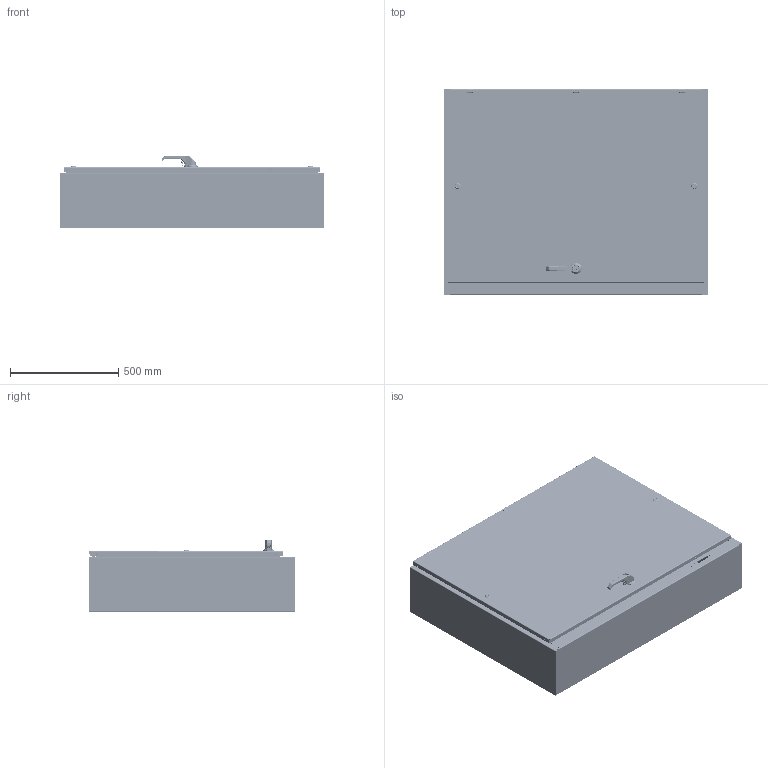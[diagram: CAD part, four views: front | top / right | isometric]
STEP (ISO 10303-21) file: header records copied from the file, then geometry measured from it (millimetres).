
FILE_DESCRIPTION((''),'2;1');
FILE_NAME('MODEL-314_ASM','2024-06-19T07:34:08',('mikek'),('SAGINAW CONTROL & ENGINEERING'),'CREO PARAMETRIC BY PTC INC, 2021284','CREO PARAMETRIC BY PTC INC, 2021284','');
FILE_SCHEMA(('AUTOMOTIVE_DESIGN { 1 0 10303 214 1 1 1 1 }'));
Length unit declared in the file: inch
Products named in the file (63): MODEL-314-BDY; MODEL-314-LS; MODEL-314-RS; MODEL-314-DR; 100837; 100882; 111267; 100794_SHAFT; 100794_INSERT; 100794_CAM; 100794_NUT; 100794_SCREW; 100794_ASM; 100953_SCREW_MTG; 100953_PADLOCK_CATCH; 100953_SCREW_LARGE; 100953_INSERT_SHAFT; 100953_INSERT_PCH; 100953_GASKET; 100953_O-RING; 100953_BASE; 100953_SPRING; 100953_HANDLE; 100953_CAM_SHAFT; 100953_HANDLE_ASM; 100953_CAM_ADAPTER; 100953_EARTH_NUT; 100953_FLANGE_NUT; 100953_CAM_NUT; 100953_CP_INSERT; 100953_SPRING_CAM; 100953_TORSION_SPRING; 100953_SCREW_INSERT; 100953_ASM; 102237; 100030; 102237_ASM; MODEL-314-ROD-UPR; 128146; 128145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
Assembly tree (116 placements, depth 5):
  MODEL-314_ASM
    MODEL-314-BDY
    MODEL-314-LS
    MODEL-314-RS
    MODEL-314-DOOR-ASSY_ASM
      MODEL-314-DR
      100837  x7
      100882  x4
      111267
      100794_ASM  x2
        100794_SHAFT
        100794_INSERT
        100794_CAM
        100794_NUT
        100794_SCREW
      100953_ASM
        100953_SCREW_MTG
        100953_PADLOCK_CATCH
        100953_SCREW_LARGE  x2
        100953_INSERT_SHAFT
        100953_INSERT_PCH
        100953_GASKET
        100953_O-RING
        100953_BASE
        100953_SPRING
        100953_HANDLE_ASM
          100953_HANDLE
          100953_CAM_SHAFT
        100953_CAM_ADAPTER
        100953_EARTH_NUT
        100953_FLANGE_NUT
        100953_CAM_NUT
        100953_CP_INSERT
        100953_SPRING_CAM
        100953_TORSION_SPRING
        100953_SCREW_INSERT
      102237_ASM
        102237
        100030  x2
      MODEL-314-ROD-UPR_ASM
        MODEL-314-ROD-UPR
        128146
        128145
        128144
        102482  x2
      128143  x2
      112504  x2
      MODEL-314-ROD-LWR_ASM
        MODEL-314-ROD-LWR
        128146
        128145
        128144
        102482  x2
      MODEL-314-GSKT
      126391_ASM  x3
        126391
      126393  x3
      102483  x9
      101226  x3
      101376  x3
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Bounding box: 1219.2 x 949.33 x 332.33 mm (x, y, z)
Volume: 11017914.5 mm3; surface area: 9877679.3 mm2
Topology: 116 solids, 116 shells, 9840 faces, 24489 edges, 14925 vertices
Faces by surface type: plane 3610, cylinder 2612, bspline 1754, torus 846, cone 662, sphere 326, extrusion 30
Entity records: 346367 total; most frequent: CARTESIAN_POINT 142310, ORIENTED_EDGE 31622, DIRECTION 28508, PRESENTATION_STYLE_ASSIGNMENT 16047, EDGE_CURVE 15811, STYLED_ITEM 15767, CURVE_STYLE 15649, AXIS2_PLACEMENT_3D 10544
